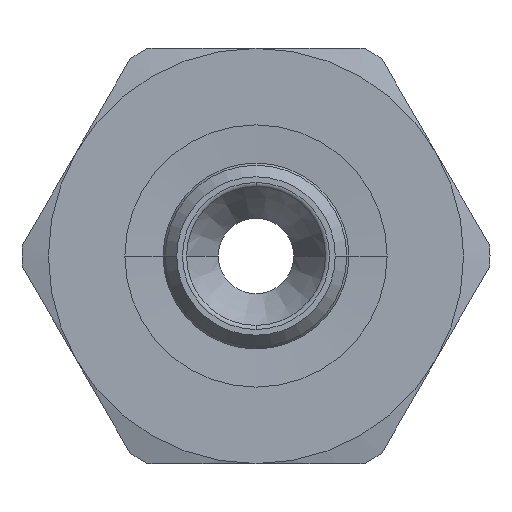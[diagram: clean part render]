
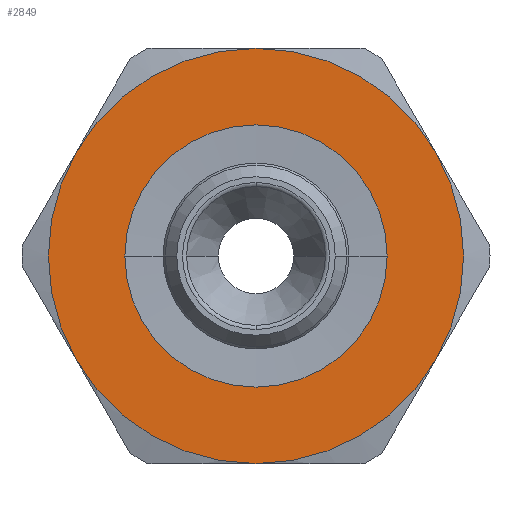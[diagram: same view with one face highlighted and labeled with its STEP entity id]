
A CAD part, left-side view. The second image highlights one B-rep face of the part: STEP entity #2849.
In plain terms, the highlighted planar face has unit normal (-1, 0, 0) as drawn and (0, 0, 1) by its records, which use the part's own axes.
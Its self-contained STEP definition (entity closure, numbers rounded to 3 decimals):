
#1176=CARTESIAN_POINT('',(0.,-6.95,3.));
#1177=VERTEX_POINT('',#1176);
#1193=CARTESIAN_POINT('',(0.,6.95,3.0));
#1194=VERTEX_POINT('',#1193);
#1201=CARTESIAN_POINT('',(0.,0.,3.0));
#1202=DIRECTION('',(0.0,0.0,-1.0));
#1203=DIRECTION('',(0.0,-1.0,0.0));
#1204=AXIS2_PLACEMENT_3D('',#1201,#1202,#1203);
#1205=CIRCLE('',#1204,6.95);
#1206=EDGE_CURVE('',#1177,#1194,#1205,.T.);
#1663=CARTESIAN_POINT('',(0.,0.,3.0));
#1664=DIRECTION('',(0.0,0.0,-1.0));
#1665=DIRECTION('',(0.0,-1.0,0.0));
#1666=AXIS2_PLACEMENT_3D('',#1663,#1664,#1665);
#1667=CIRCLE('',#1666,6.95);
#1668=EDGE_CURVE('',#1194,#1177,#1667,.T.);
#2222=CARTESIAN_POINT('',(5.5,-9.526,3.));
#2223=VERTEX_POINT('',#2222);
#2237=CARTESIAN_POINT('',(-5.5,-9.526,3.));
#2238=VERTEX_POINT('',#2237);
#2239=CARTESIAN_POINT('',(0.,0.0,3.0));
#2240=DIRECTION('',(0.0,0.0,1.0));
#2241=DIRECTION('',(1.0,0.0,0.0));
#2242=AXIS2_PLACEMENT_3D('',#2239,#2240,#2241);
#2243=CIRCLE('',#2242,11.);
#2244=EDGE_CURVE('',#2238,#2223,#2243,.T.);
#2322=CARTESIAN_POINT('',(-11.0,0.,3.));
#2323=VERTEX_POINT('',#2322);
#2324=CARTESIAN_POINT('',(0.,0.0,3.0));
#2325=DIRECTION('',(0.0,0.0,1.0));
#2326=DIRECTION('',(1.0,0.0,0.0));
#2327=AXIS2_PLACEMENT_3D('',#2324,#2325,#2326);
#2328=CIRCLE('',#2327,11.);
#2329=EDGE_CURVE('',#2323,#2238,#2328,.T.);
#2406=CARTESIAN_POINT('',(-5.5,9.526,3.));
#2407=VERTEX_POINT('',#2406);
#2408=CARTESIAN_POINT('',(0.,0.0,3.0));
#2409=DIRECTION('',(0.0,0.0,1.0));
#2410=DIRECTION('',(1.0,0.0,0.0));
#2411=AXIS2_PLACEMENT_3D('',#2408,#2409,#2410);
#2412=CIRCLE('',#2411,11.);
#2413=EDGE_CURVE('',#2407,#2323,#2412,.T.);
#2490=CARTESIAN_POINT('',(5.5,9.526,3.));
#2491=VERTEX_POINT('',#2490);
#2492=CARTESIAN_POINT('',(0.,0.0,3.0));
#2493=DIRECTION('',(0.0,0.0,1.0));
#2494=DIRECTION('',(1.0,0.0,0.0));
#2495=AXIS2_PLACEMENT_3D('',#2492,#2493,#2494);
#2496=CIRCLE('',#2495,11.);
#2497=EDGE_CURVE('',#2491,#2407,#2496,.T.);
#2575=CARTESIAN_POINT('',(11.0,0.0,3.));
#2576=VERTEX_POINT('',#2575);
#2577=CARTESIAN_POINT('',(0.,0.0,3.0));
#2578=DIRECTION('',(0.0,0.0,1.0));
#2579=DIRECTION('',(1.0,0.0,0.0));
#2580=AXIS2_PLACEMENT_3D('',#2577,#2578,#2579);
#2581=CIRCLE('',#2580,11.);
#2582=EDGE_CURVE('',#2576,#2491,#2581,.T.);
#2659=CARTESIAN_POINT('',(0.,0.0,3.0));
#2660=DIRECTION('',(0.0,0.0,1.0));
#2661=DIRECTION('',(1.0,0.0,0.0));
#2662=AXIS2_PLACEMENT_3D('',#2659,#2660,#2661);
#2663=CIRCLE('',#2662,11.);
#2664=EDGE_CURVE('',#2223,#2576,#2663,.T.);
#2832=CARTESIAN_POINT('',(0.,0.,3.0));
#2833=DIRECTION('',(0.0,0.0,1.0));
#2834=DIRECTION('',(1.0,0.0,0.0));
#2835=AXIS2_PLACEMENT_3D('',#2832,#2833,#2834);
#2836=PLANE('',#2835);
#2837=ORIENTED_EDGE('',*,*,#2664,.T.);
#2838=ORIENTED_EDGE('',*,*,#2582,.T.);
#2839=ORIENTED_EDGE('',*,*,#2497,.T.);
#2840=ORIENTED_EDGE('',*,*,#2413,.T.);
#2841=ORIENTED_EDGE('',*,*,#2329,.T.);
#2842=ORIENTED_EDGE('',*,*,#2244,.T.);
#2843=EDGE_LOOP('',(#2837,#2838,#2839,#2840,#2841,#2842));
#2844=FACE_OUTER_BOUND('',#2843,.T.);
#2845=ORIENTED_EDGE('',*,*,#1206,.T.);
#2846=ORIENTED_EDGE('',*,*,#1668,.T.);
#2847=EDGE_LOOP('',(#2845,#2846));
#2848=FACE_BOUND('',#2847,.T.);
#2849=ADVANCED_FACE('',(#2844,#2848),#2836,.T.);
